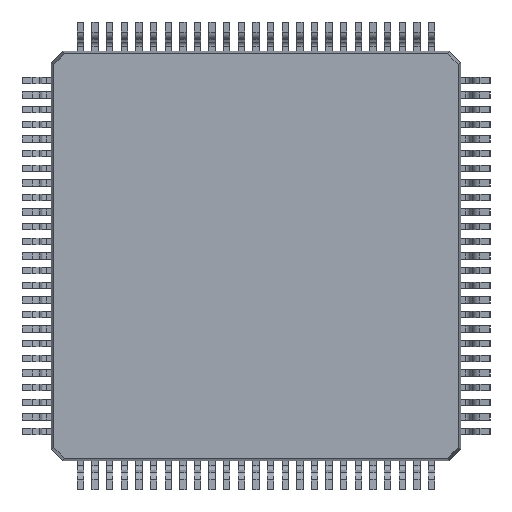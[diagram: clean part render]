
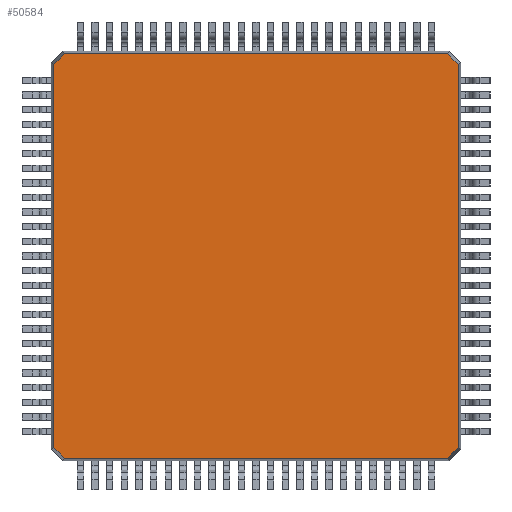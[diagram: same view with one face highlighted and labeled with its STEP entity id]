
A CAD part, front view. The second image highlights one B-rep face of the part: STEP entity #50584.
In plain terms, the highlighted planar face has unit normal (0, -1, 0).
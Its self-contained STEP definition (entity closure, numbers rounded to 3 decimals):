
#6303=FACE_OUTER_BOUND('',#9126,.T.);
#9126=EDGE_LOOP('',(#44211,#44212,#44213,#44214,#44215,#44216,#44217,#44218));
#13567=LINE('',#90378,#18523);
#13570=LINE('',#90383,#18526);
#13572=LINE('',#90387,#18528);
#13574=LINE('',#90391,#18530);
#13576=LINE('',#90395,#18532);
#13578=LINE('',#90399,#18534);
#13580=LINE('',#90403,#18536);
#13581=LINE('',#90405,#18537);
#18523=VECTOR('',#61705,1000.);
#18526=VECTOR('',#61710,1000.);
#18528=VECTOR('',#61714,1000.);
#18530=VECTOR('',#61718,1000.);
#18532=VECTOR('',#61722,1000.);
#18534=VECTOR('',#61726,1000.);
#18536=VECTOR('',#61730,1000.);
#18537=VECTOR('',#61733,1000.);
#23627=VERTEX_POINT('',#90375);
#23628=VERTEX_POINT('',#90377);
#23629=VERTEX_POINT('',#90381);
#23630=VERTEX_POINT('',#90385);
#23631=VERTEX_POINT('',#90389);
#23632=VERTEX_POINT('',#90393);
#23633=VERTEX_POINT('',#90397);
#23634=VERTEX_POINT('',#90401);
#30626=EDGE_CURVE('',#23628,#23627,#13567,.T.);
#30629=EDGE_CURVE('',#23627,#23629,#13570,.T.);
#30631=EDGE_CURVE('',#23629,#23630,#13572,.T.);
#30633=EDGE_CURVE('',#23630,#23631,#13574,.T.);
#30635=EDGE_CURVE('',#23631,#23632,#13576,.T.);
#30637=EDGE_CURVE('',#23632,#23633,#13578,.T.);
#30639=EDGE_CURVE('',#23633,#23634,#13580,.T.);
#30640=EDGE_CURVE('',#23634,#23628,#13581,.T.);
#44211=ORIENTED_EDGE('',*,*,#30626,.T.);
#44212=ORIENTED_EDGE('',*,*,#30629,.T.);
#44213=ORIENTED_EDGE('',*,*,#30631,.T.);
#44214=ORIENTED_EDGE('',*,*,#30633,.T.);
#44215=ORIENTED_EDGE('',*,*,#30635,.T.);
#44216=ORIENTED_EDGE('',*,*,#30637,.T.);
#44217=ORIENTED_EDGE('',*,*,#30639,.T.);
#44218=ORIENTED_EDGE('',*,*,#30640,.T.);
#47973=PLANE('',#53134);
#50584=ADVANCED_FACE('',(#6303),#47973,.T.);
#53134=AXIS2_PLACEMENT_3D('',#90406,#61734,#61735);
#61705=DIRECTION('',(-0.707,0.,0.707));
#61710=DIRECTION('',(-1.,0.,0.));
#61714=DIRECTION('',(-0.707,0.,-0.707));
#61718=DIRECTION('',(0.,0.,-1.));
#61722=DIRECTION('',(0.707,0.,-0.707));
#61726=DIRECTION('',(1.,0.,0.));
#61730=DIRECTION('',(0.707,0.,0.707));
#61733=DIRECTION('',(0.,0.,1.));
#61734=DIRECTION('center_axis',(0.,-1.,0.));
#61735=DIRECTION('ref_axis',(0.,0.,-1.));
#90375=CARTESIAN_POINT('',(6.562,0.15,6.907));
#90377=CARTESIAN_POINT('',(6.907,0.15,6.562));
#90378=CARTESIAN_POINT('',(6.934,0.15,6.534));
#90381=CARTESIAN_POINT('',(-6.562,0.15,6.907));
#90383=CARTESIAN_POINT('',(6.6,0.15,6.907));
#90385=CARTESIAN_POINT('',(-6.907,0.15,6.562));
#90387=CARTESIAN_POINT('',(-6.534,0.15,6.934));
#90389=CARTESIAN_POINT('',(-6.907,0.15,-6.562));
#90391=CARTESIAN_POINT('',(-6.907,0.15,6.6));
#90393=CARTESIAN_POINT('',(-6.562,0.15,-6.907));
#90395=CARTESIAN_POINT('',(-6.934,0.15,-6.534));
#90397=CARTESIAN_POINT('',(6.562,0.15,-6.907));
#90399=CARTESIAN_POINT('',(-6.6,0.15,-6.907));
#90401=CARTESIAN_POINT('',(6.907,0.15,-6.562));
#90403=CARTESIAN_POINT('',(6.534,0.15,-6.934));
#90405=CARTESIAN_POINT('',(6.907,0.15,-6.6));
#90406=CARTESIAN_POINT('Origin',(0.,0.15,0.));
